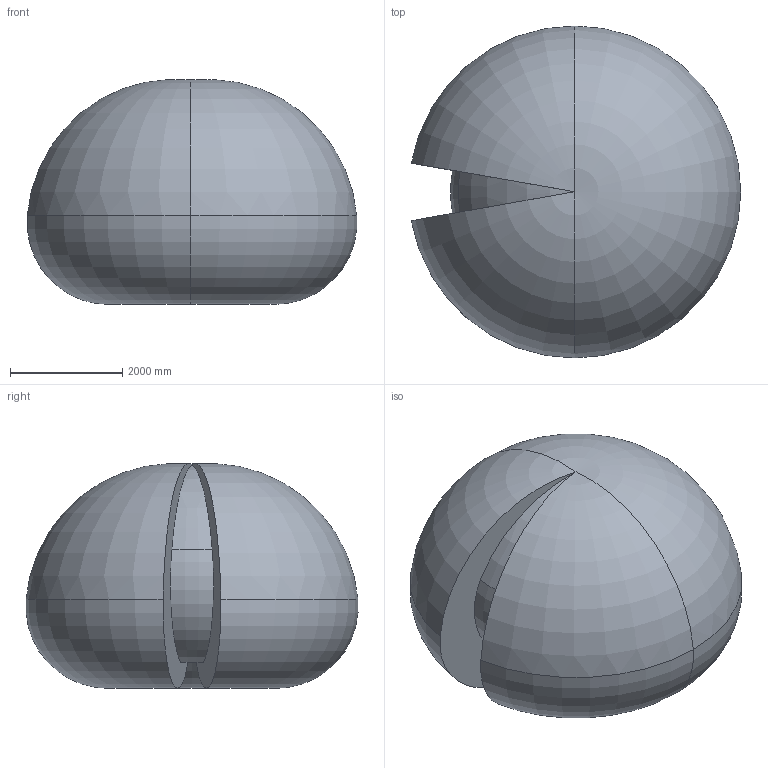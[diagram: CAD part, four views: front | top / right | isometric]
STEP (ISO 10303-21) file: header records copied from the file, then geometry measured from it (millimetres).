
FILE_DESCRIPTION (( 'STEP AP214' ), '1' );
FILE_NAME ('IRB6710_200kg-295_OC_00_Working-space.STEP', '2023-05-10T07:53:56', ( '' ), ( '' ), 'SwSTEP 2.0', 'SolidWorks 2020', '' );
FILE_SCHEMA (( 'AUTOMOTIVE_DESIGN' ));
Length unit declared in the file: millimetre
Products named in the file (1): IRB6710_200kg-295_OC_00_Working-space
Bounding box: 5865.6 x 5910.49 x 3998.23 mm (x, y, z)
Volume: 72325043269.4 mm3; surface area: 113773749.2 mm2
Topology: 1 solids, 1 shells, 22 faces, 54 edges, 26 vertices
Faces by surface type: torus 18, plane 4
Entity records: 638 total; most frequent: DIRECTION 138, CARTESIAN_POINT 95, ORIENTED_EDGE 92, AXIS2_PLACEMENT_3D 69, EDGE_CURVE 46, CIRCLE 46, VERTEX_POINT 26, EDGE_LOOP 22
